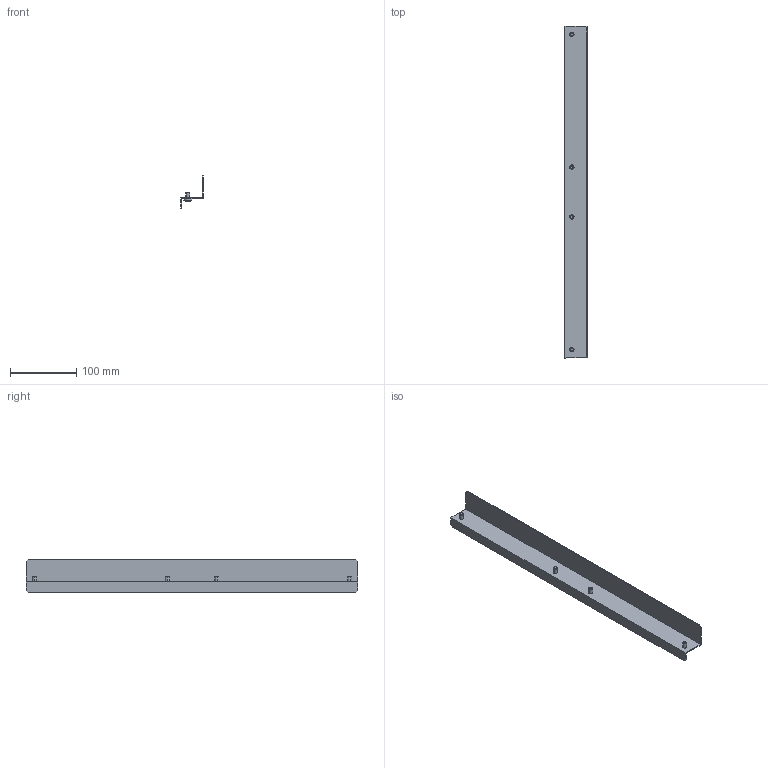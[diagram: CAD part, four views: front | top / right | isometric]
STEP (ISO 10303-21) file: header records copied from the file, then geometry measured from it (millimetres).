
FILE_DESCRIPTION (( 'STEP AP214' ), '1' );
FILE_NAME ('FO-00-BPS2-060 Ïëàíêà ñåêöèîíèðîâàíèÿ êîìïåíñàöèîííàÿ òèïà 2 â øêàô øèðèíîé 600 ìì.STEP', '2025-08-13T07:02:41', ( '' ), ( '' ), 'SwSTEP 2.0', 'SolidWorks 2023', '' );
FILE_SCHEMA (( 'AUTOMOTIVE_DESIGN' ));
Length unit declared in the file: millimetre
Products named in the file (1): FO-00-BPS2-060 Планка секционирования компенсационная типа 2 в шкаф шириной 600 мм
Bounding box: 33.5 x 500 x 49.5 mm (x, y, z)
Volume: 63422.8 mm3; surface area: 84645.7 mm2
Topology: 1 solids, 1 shells, 138 faces, 358 edges, 230 vertices
Faces by surface type: cylinder 84, plane 30, torus 8, cone 8, sphere 8
Entity records: 4387 total; most frequent: CARTESIAN_POINT 995, ORIENTED_EDGE 716, DIRECTION 706, EDGE_CURVE 358, AXIS2_PLACEMENT_3D 277, VERTEX_POINT 230, VECTOR 152, LINE 152
